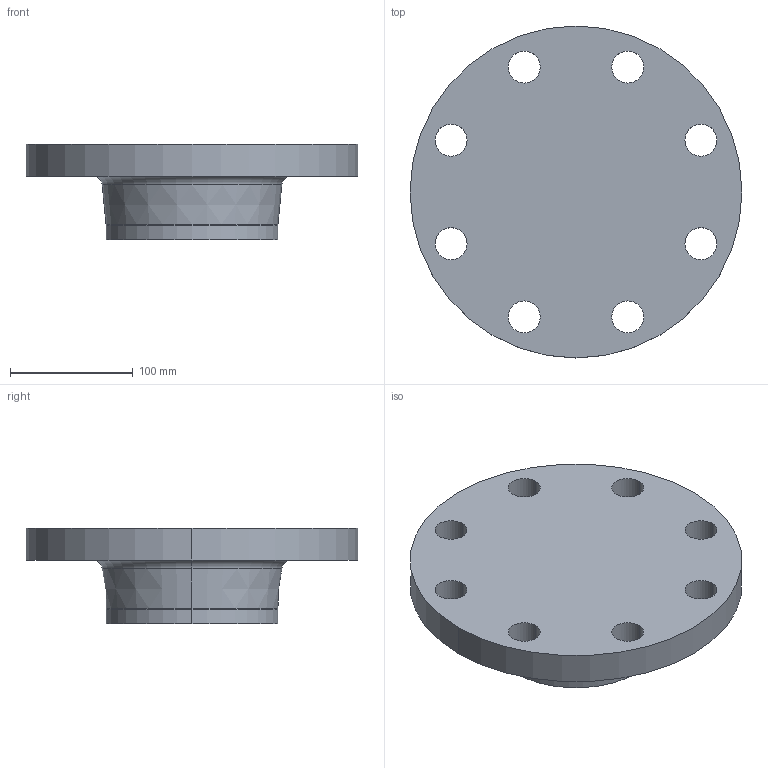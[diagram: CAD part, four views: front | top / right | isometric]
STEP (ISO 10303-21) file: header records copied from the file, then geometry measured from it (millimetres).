
FILE_DESCRIPTION (( 'STEP AP214' ), '1' );
FILE_NAME ('PN40 DN125 Type 21(ii) - Type A Face.STEP', '2019-01-02T01:15:13', ( '' ), ( '' ), 'SwSTEP 2.0', 'SolidWorks 2019', '' );
FILE_SCHEMA (( 'AUTOMOTIVE_DESIGN' ));
Length unit declared in the file: millimetre
Products named in the file (1): PN40 DN125 Type 21(ii) - Type A Face
Bounding box: 270 x 270 x 78 mm (x, y, z)
Volume: 2214921.1 mm3; surface area: 165458.3 mm2
Topology: 1 solids, 1 shells, 29 faces, 72 edges, 46 vertices
Faces by surface type: cylinder 20, torus 4, plane 3, cone 2
Entity records: 954 total; most frequent: DIRECTION 182, CARTESIAN_POINT 148, ORIENTED_EDGE 144, AXIS2_PLACEMENT_3D 80, EDGE_CURVE 72, CIRCLE 50, VERTEX_POINT 46, EDGE_LOOP 46
